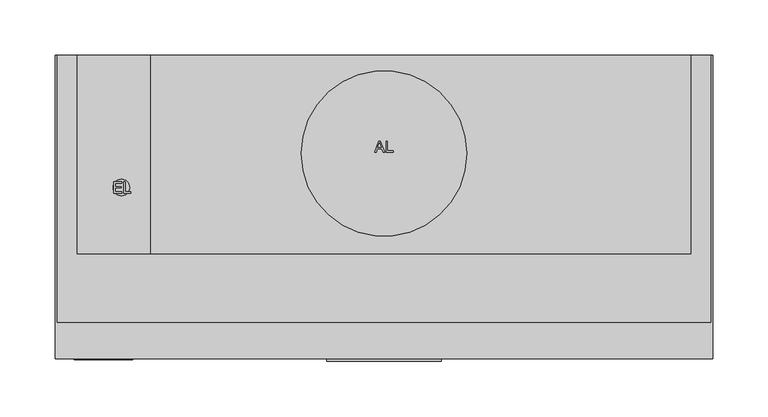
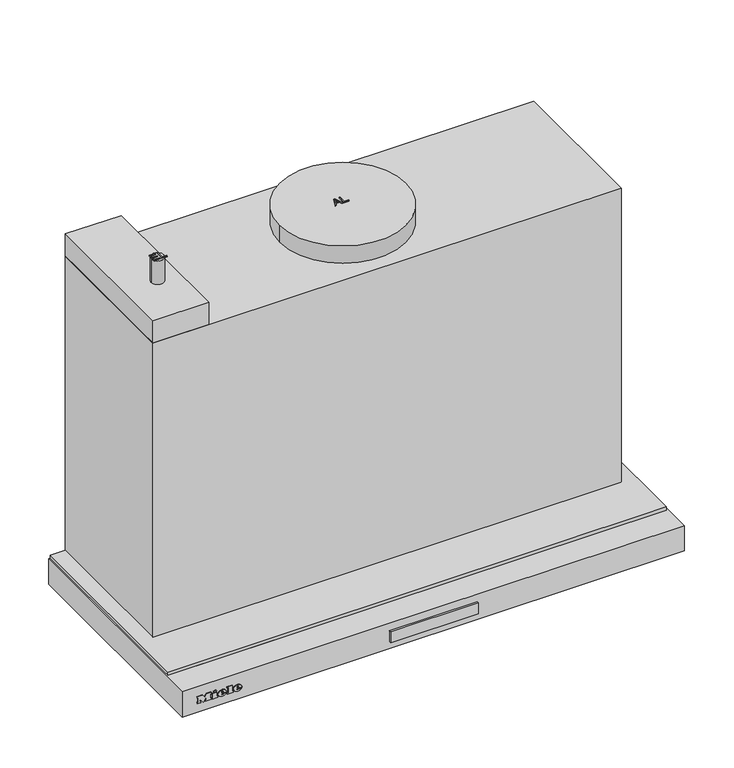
"""IFC4 building model written with IfcOpenShell, lengths in millimetres: proxy geometry, 11862150_D_DAS2620_EDST : 28S2620S_D_11862150_DAS2620_EDST."""

from ifc_helpers import new_model, si_unit, point, frame, frame_2d, origin, origin_with_axes, place, context, project, spatial, polyline, circle_curve, ellipse_curve, trimmed, segment, composite_curve, outline, extrude, faceted_brep, source, transform, mapped, element, save
from ifc_brep_helpers import plane_surface, cylinder_surface, revolved_surface, extruded_surface, advanced_brep


def specialty_equipment_d58cf125(model_context):
    return source(origin(), model_context, "Body", "SolidModel", [
        extrude(outline(polyline([(52.0, -275.0), (52.0, -277.3978707), (-52.0, -277.3978707), (-52.0, -275.0), (52.0, -275.0)])), frame((0.0, 0.0, -23.0389651), z_axis=(0.0, 0.0, 1.0), x_axis=(1.0, 0.0, 0.0)), (0.0, 0.0, 1.0), 13.3389155),
        advanced_brep(
        [(-233.4590019, -276.0, -18.7681017), (-233.4590019, -276.0, -17.8894017), (-227.6387019, -276.0, -17.8894017), (-237.7655019, -276.0, -17.8894017), (-235.3730019, -276.0, -20.8300017), (-227.7866019, -276.0, -18.7681017), (-230.4140019, -276.0, -18.7681017), (-232.4846019, -276.0, -19.7425017), (-233.4590019, -276.0, -16.7758017), (-233.4590019, -276.0, -15.8275017), (-231.9713019, -276.0, -15.8275017), (-231.9713019, -276.0, -16.7758017), (-233.4590019, -275.0, -18.7681017), (-232.4846019, -275.0, -19.7425017), (-230.4140019, -275.0, -18.7681017), (-227.7866019, -275.0, -18.7681017), (-235.3730019, -275.0, -20.8300017), (-237.7655019, -275.0, -17.8894017), (-227.6387019, -275.0, -17.8894017), (-233.4590019, -275.0, -17.8894017), (-233.4590019, -275.0, -16.7758017), (-231.9713019, -275.0, -16.7758017), (-231.9713019, -275.0, -15.8275017), (-233.4590019, -275.0, -15.8275017)],
        [
            (0, 1),
            (1, 2),
            (2, 3, ellipse_curve(frame((-232.7021019, -276.0, -17.8894017), z_axis=(0.0, -1.0, 0.0), x_axis=(-1.0, 0.0, 0.0)), 5.0634, 4.1847)),
            (3, 4, circle_curve(frame((-234.3985544, -276.0, -17.5936017), z_axis=(0.0, -1.0, 0.0), x_axis=(0.0, 0.0, -1.0)), 3.3799161)),
            (4, 5, circle_curve(frame((-232.8034638, -276.0, -15.2968017), z_axis=(0.0, -1.0, 0.0), x_axis=(0.0, 0.0, -1.0)), 6.1007236)),
            (5, 6),
            (6, 7, circle_curve(frame((-232.0593254, -276.0, -17.9590017), z_axis=(0.0, 1.0, 0.0), x_axis=(0.0, 0.0, -1.0)), 1.8335027)),
            (7, 0, circle_curve(frame((-232.4846019, -276.0, -18.7681017), z_axis=(0.0, 1.0, 0.0), x_axis=(0.0, 0.0, -1.0)), 0.9744)),
            (8, 9),
            (9, 10, circle_curve(frame((-232.7151519, -276.0, -15.8275017), z_axis=(0.0, 1.0, 0.0), x_axis=(0.0, 0.0, -1.0)), 0.74385)),
            (10, 11),
            (11, 8),
            (12, 13, circle_curve(frame((-232.4846019, -275.0, -18.7681017), z_axis=(0.0, -1.0, 0.0), x_axis=(0.0, 0.0, -1.0)), 0.9744)),
            (13, 14, circle_curve(frame((-232.0593254, -275.0, -17.9590017), z_axis=(0.0, -1.0, 0.0), x_axis=(0.0, 0.0, -1.0)), 1.8335027)),
            (14, 15),
            (15, 16, circle_curve(frame((-232.8034638, -275.0, -15.2968017), z_axis=(0.0, 1.0, 0.0), x_axis=(0.0, 0.0, -1.0)), 6.1007236)),
            (16, 17, circle_curve(frame((-234.3985544, -275.0, -17.5936017), z_axis=(0.0, 1.0, 0.0), x_axis=(0.0, 0.0, -1.0)), 3.3799161)),
            (17, 18, ellipse_curve(frame((-232.7021019, -275.0, -17.8894017), z_axis=(0.0, 1.0, 0.0), x_axis=(-1.0, 0.0, 0.0)), 5.0634, 4.1847)),
            (18, 19),
            (19, 12),
            (20, 21),
            (21, 22),
            (22, 23, circle_curve(frame((-232.7151519, -275.0, -15.8275017), z_axis=(0.0, -1.0, 0.0), x_axis=(0.0, 0.0, -1.0)), 0.74385)),
            (23, 20),
            (0, 12),
            (19, 1),
            (18, 2),
            (5, 15),
            (14, 6),
            (17, 3),
            (13, 7),
            (16, 4),
            (8, 20),
            (23, 9),
            (22, 10),
            (21, 11),
        ],
        [
            plane_surface(frame((-233.4590019, -276.0, -17.8894017), z_axis=(0.0, -1.0, 0.0), x_axis=(0.0, 0.0, 1.0))),
            plane_surface(frame((-233.4590019, -275.0, -17.8894017), z_axis=(0.0, 1.0, 0.0), x_axis=(0.0, 0.0, -1.0))),
            plane_surface(frame((-233.4590019, -276.0, -18.7681017), z_axis=(1.0, 0.0, 0.0), x_axis=(0.0, 1.0, 0.0))),
            plane_surface(frame((-233.4590019, -276.0, -17.8894017), z_axis=(0.0, 0.0, -1.0), x_axis=(0.0, 1.0, 0.0))),
            plane_surface(frame((-227.7866019, -276.0, -18.7681017), z_axis=(0.0, 0.0, 1.0), x_axis=(0.0, 1.0, 0.0))),
            extruded_surface(trimmed(ellipse_curve(frame((-232.7021019, -274.0, -17.8894017), z_axis=(0.0, -1.0, 0.0), x_axis=(-1.0, 0.0, 0.0)), 5.0634, 4.1847), [point((-227.6387019, -274.0, -17.8894017))], [point((-237.7655019, -274.0, -17.8894017))], True, "CARTESIAN"), (0.0, -1.0, 0.0), 1.0),
            revolved_surface(polyline([(-232.0593254, -275.0, -19.792504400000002), (-232.0593254, -276.0, -19.792504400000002)]), (-232.0593254, -275.0, -17.9590017), (0.0, 1.0, 0.0)),
            revolved_surface(polyline([(-232.4846019, -275.0, -19.7425017), (-232.4846019, -276.0, -19.7425017)]), (-232.4846019, -275.0, -18.7681017), (0.0, 1.0, 0.0)),
            cylinder_surface(frame((-234.3985544, -275.0, -17.5936017), z_axis=(0.0, -1.0, 0.0), x_axis=(0.0, 0.0, -1.0)), 3.3799161),
            cylinder_surface(frame((-232.8034638, -275.0, -15.2968017), z_axis=(0.0, -1.0, 0.0), x_axis=(0.0, 0.0, -1.0)), 6.1007236),
            plane_surface(frame((-233.4590019, -276.0, -16.7758017), z_axis=(1.0, 0.0, 0.0), x_axis=(0.0, 1.0, 0.0))),
            revolved_surface(polyline([(-232.7151519, -275.0, -16.571351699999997), (-232.7151519, -276.0, -16.571351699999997)]), (-232.7151519, -275.0, -15.8275017), (0.0, 1.0, 0.0)),
            plane_surface(frame((-231.9713019, -276.0, -15.8275017), z_axis=(-1.0, 0.0, 0.0), x_axis=(0.0, 1.0, 0.0))),
            plane_surface(frame((-231.9713019, -276.0, -16.7758017), z_axis=(0.0, 0.0, 1.0), x_axis=(0.0, 1.0, 0.0))),
        ],
        [
            (0, [[1, 2, 3, 4, 5, 6, 7, 8], [9, 10, 11, 12]]),
            (1, [[13, 14, 15, 16, 17, 18, 19, 20], [21, 22, 23, 24]]),
            (2, [[-1, 25, -20, 26]]),
            (3, [[-2, -26, -19, 27]]),
            (4, [[-6, 28, -15, 29]]),
            (5, [[-3, -27, -18, 30]]),
            (6, [[-7, -29, -14, 31]]),
            (7, [[-8, -31, -13, -25]]),
            (8, [[-4, -30, -17, 32]]),
            (9, [[-5, -32, -16, -28]]),
            (10, [[-9, 33, -24, 34]]),
            (11, [[-10, -34, -23, 35]]),
            (12, [[-11, -35, -22, 36]]),
            (13, [[-12, -36, -21, -33]]),
        ],
    ),
        advanced_brep(
        [(-251.6159019, -276.0, -18.7681017), (-251.6159019, -276.0, -17.8894017), (-245.7956019, -276.0, -17.8894017), (-255.9224019, -276.0, -17.8894017), (-253.5299019, -276.0, -20.8300017), (-245.9435019, -276.0, -18.7681017), (-248.5709019, -276.0, -18.7681017), (-250.6415019, -276.0, -19.7425017), (-251.6159019, -276.0, -16.7758017), (-251.6159019, -276.0, -15.8275017), (-250.1282019, -276.0, -15.8275017), (-250.1282019, -276.0, -16.7758017), (-251.6159019, -275.0, -18.7681017), (-250.6415019, -275.0, -19.7425017), (-248.5709019, -275.0, -18.7681017), (-245.9435019, -275.0, -18.7681017), (-253.5299019, -275.0, -20.8300017), (-255.9224019, -275.0, -17.8894017), (-245.7956019, -275.0, -17.8894017), (-251.6159019, -275.0, -17.8894017), (-251.6159019, -275.0, -16.7758017), (-250.1282019, -275.0, -16.7758017), (-250.1282019, -275.0, -15.8275017), (-251.6159019, -275.0, -15.8275017)],
        [
            (0, 1),
            (1, 2),
            (2, 3, ellipse_curve(frame((-250.8590019, -276.0, -17.8894017), z_axis=(0.0, -1.0, 0.0), x_axis=(-1.0, 0.0, 0.0)), 5.0634, 4.1847)),
            (3, 4, circle_curve(frame((-252.5554544, -276.0, -17.5936017), z_axis=(0.0, -1.0, 0.0), x_axis=(0.0, 0.0, -1.0)), 3.3799161)),
            (4, 5, circle_curve(frame((-250.9603638, -276.0, -15.2968017), z_axis=(0.0, -1.0, 0.0), x_axis=(0.0, 0.0, -1.0)), 6.1007236)),
            (5, 6),
            (6, 7, circle_curve(frame((-250.2162254, -276.0, -17.9590017), z_axis=(0.0, 1.0, 0.0), x_axis=(0.0, 0.0, -1.0)), 1.8335027)),
            (7, 0, circle_curve(frame((-250.6415019, -276.0, -18.7681017), z_axis=(0.0, 1.0, 0.0), x_axis=(0.0, 0.0, -1.0)), 0.9744)),
            (8, 9),
            (9, 10, circle_curve(frame((-250.8720519, -276.0, -15.8275017), z_axis=(0.0, 1.0, 0.0), x_axis=(0.0, 0.0, -1.0)), 0.74385)),
            (10, 11),
            (11, 8),
            (12, 13, circle_curve(frame((-250.6415019, -275.0, -18.7681017), z_axis=(0.0, -1.0, 0.0), x_axis=(0.0, 0.0, -1.0)), 0.9744)),
            (13, 14, circle_curve(frame((-250.2162254, -275.0, -17.9590017), z_axis=(0.0, -1.0, 0.0), x_axis=(0.0, 0.0, -1.0)), 1.8335027)),
            (14, 15),
            (15, 16, circle_curve(frame((-250.9603638, -275.0, -15.2968017), z_axis=(0.0, 1.0, 0.0), x_axis=(0.0, 0.0, -1.0)), 6.1007236)),
            (16, 17, circle_curve(frame((-252.5554544, -275.0, -17.5936017), z_axis=(0.0, 1.0, 0.0), x_axis=(0.0, 0.0, -1.0)), 3.3799161)),
            (17, 18, ellipse_curve(frame((-250.8590019, -275.0, -17.8894017), z_axis=(0.0, 1.0, 0.0), x_axis=(-1.0, 0.0, 0.0)), 5.0634, 4.1847)),
            (18, 19),
            (19, 12),
            (20, 21),
            (21, 22),
            (22, 23, circle_curve(frame((-250.8720519, -275.0, -15.8275017), z_axis=(0.0, -1.0, 0.0), x_axis=(0.0, 0.0, -1.0)), 0.74385)),
            (23, 20),
            (0, 12),
            (19, 1),
            (18, 2),
            (5, 15),
            (14, 6),
            (17, 3),
            (13, 7),
            (16, 4),
            (8, 20),
            (23, 9),
            (22, 10),
            (21, 11),
        ],
        [
            plane_surface(frame((-251.6159019, -276.0, -17.8894017), z_axis=(0.0, -1.0, 0.0), x_axis=(0.0, 0.0, 1.0))),
            plane_surface(frame((-251.6159019, -275.0, -17.8894017), z_axis=(0.0, 1.0, 0.0), x_axis=(0.0, 0.0, -1.0))),
            plane_surface(frame((-251.6159019, -276.0, -18.7681017), z_axis=(1.0, 0.0, 0.0), x_axis=(0.0, 1.0, 0.0))),
            plane_surface(frame((-251.6159019, -276.0, -17.8894017), z_axis=(0.0, 0.0, -1.0), x_axis=(0.0, 1.0, 0.0))),
            plane_surface(frame((-245.9435019, -276.0, -18.7681017), z_axis=(0.0, 0.0, 1.0), x_axis=(0.0, 1.0, 0.0))),
            extruded_surface(trimmed(ellipse_curve(frame((-250.8590019, -274.0, -17.8894017), z_axis=(0.0, -1.0, 0.0), x_axis=(-1.0, 0.0, 0.0)), 5.0634, 4.1847), [point((-245.7956019, -274.0, -17.8894017))], [point((-255.9224019, -274.0, -17.8894017))], True, "CARTESIAN"), (0.0, -1.0, 0.0), 1.0),
            revolved_surface(polyline([(-250.2162254, -275.0, -19.792504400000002), (-250.2162254, -276.0, -19.792504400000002)]), (-250.2162254, -275.0, -17.9590017), (0.0, 1.0, 0.0)),
            revolved_surface(polyline([(-250.6415019, -275.0, -19.7425017), (-250.6415019, -276.0, -19.7425017)]), (-250.6415019, -275.0, -18.7681017), (0.0, 1.0, 0.0)),
            cylinder_surface(frame((-252.5554544, -275.0, -17.5936017), z_axis=(0.0, -1.0, 0.0), x_axis=(0.0, 0.0, -1.0)), 3.3799161),
            cylinder_surface(frame((-250.9603638, -275.0, -15.2968017), z_axis=(0.0, -1.0, 0.0), x_axis=(0.0, 0.0, -1.0)), 6.1007236),
            plane_surface(frame((-251.6159019, -276.0, -16.7758017), z_axis=(1.0, 0.0, 0.0), x_axis=(0.0, 1.0, 0.0))),
            revolved_surface(polyline([(-250.8720519, -275.0, -16.571351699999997), (-250.8720519, -276.0, -16.571351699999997)]), (-250.8720519, -275.0, -15.8275017), (0.0, 1.0, 0.0)),
            plane_surface(frame((-250.1282019, -276.0, -15.8275017), z_axis=(-1.0, 0.0, 0.0), x_axis=(0.0, 1.0, 0.0))),
            plane_surface(frame((-250.1282019, -276.0, -16.7758017), z_axis=(0.0, 0.0, 1.0), x_axis=(0.0, 1.0, 0.0))),
        ],
        [
            (0, [[1, 2, 3, 4, 5, 6, 7, 8], [9, 10, 11, 12]]),
            (1, [[13, 14, 15, 16, 17, 18, 19, 20], [21, 22, 23, 24]]),
            (2, [[-1, 25, -20, 26]]),
            (3, [[-2, -26, -19, 27]]),
            (4, [[-6, 28, -15, 29]]),
            (5, [[-3, -27, -18, 30]]),
            (6, [[-7, -29, -14, 31]]),
            (7, [[-8, -31, -13, -25]]),
            (8, [[-4, -30, -17, 32]]),
            (9, [[-5, -32, -16, -28]]),
            (10, [[-9, 33, -24, 34]]),
            (11, [[-10, -34, -23, 35]]),
            (12, [[-11, -35, -22, 36]]),
            (13, [[-12, -36, -21, -33]]),
        ],
    ),
        extrude(outline(polyline([(-12.6433017, -261.1250019), (-14.0527017, -260.4638019), (-12.6781017, -257.5145019), (-11.2687017, -258.1670019), (-12.6433017, -261.1250019)])), frame((0.0, -276.0, 0.0), z_axis=(0.0, 1.0, 0.0), x_axis=(0.0, 0.0, 1.0)), (0.0, 0.0, 1.0), 1.0),
        extrude(outline(polyline([(-14.2441017, -263.2739019), (-15.8014017, -263.2739019), (-15.8014017, -262.2386019), (-19.3684017, -262.2386019), (-19.3684017, -263.2739019), (-20.8300017, -263.2739019), (-20.8300017, -256.4096019), (-19.3684017, -256.4096019), (-19.3684017, -257.4188019), (-14.2441017, -257.4188019), (-14.2441017, -263.2739019)])), frame((0.0, -276.0, 0.0), z_axis=(0.0, 1.0, 0.0), x_axis=(0.0, 0.0, 1.0)), (0.0, 0.0, 1.0), 1.0),
        extrude(outline(polyline([(-13.5481017, -245.3084019), (-13.5481017, -244.2644019), (-19.3684017, -244.2644019), (-19.3684017, -245.3084019), (-20.8300017, -245.3084019), (-20.8300017, -238.2527019), (-19.3684017, -238.2527019), (-19.3684017, -239.3228019), (-12.1300017, -239.3228019), (-12.1300017, -245.3084019), (-13.5481017, -245.3084019)])), frame((0.0, -276.0, 0.0), z_axis=(0.0, 1.0, 0.0), x_axis=(0.0, 0.0, 1.0)), (0.0, 0.0, 1.0), 1.0),
        extrude(outline(polyline([(-13.5481017, -280.6130019), (-13.5481017, -279.5603019), (-19.3684017, -279.5603019), (-19.3684017, -280.6130019), (-20.8300017, -280.6130019), (-20.8300017, -276.7850019), (-19.3684017, -276.7850019), (-19.3684017, -277.8290019), (-15.6719769, -277.8290019), (-20.8300017, -273.9401019), (-15.5772794, -270.0338019), (-19.3684017, -270.0338019), (-19.3684017, -271.1039019), (-20.8300017, -271.1039019), (-20.8300017, -264.1613019), (-19.3684017, -264.1613019), (-19.3684017, -265.2662019), (-13.5481017, -265.2662019), (-13.5481017, -264.1613019), (-12.1300017, -264.1613019), (-12.1300017, -269.4596019), (-15.3925017, -272.0000019), (-12.1300017, -274.5491019), (-12.1300017, -280.6130019), (-13.5481017, -280.6130019)])), frame((0.0, -276.0, 0.0), z_axis=(0.0, 1.0, 0.0), x_axis=(0.0, 0.0, 1.0)), (0.0, 0.0, 1.0), 1.0),
        extrude(outline(polyline([(278.0, -180.0), (-278.0, -180.0), (-278.0, 0.0), (278.0, 0.0), (278.0, -180.0)])), frame((0.0, 0.0, 4.0), z_axis=(0.0, 0.0, 1.0), x_axis=(1.0, 0.0, 0.0)), (0.0, 0.0, 1.0), 369.0),
        extrude(outline(composite_curve([segment(trimmed(circle_curve(frame_2d((0.0, -89.0)), 75.0), [point((-75.0, -89.0))], [point((75.0, -89.0))], False, "CARTESIAN"), True, "CONTINUOUS"), segment(trimmed(circle_curve(frame_2d((0.0, -89.0)), 75.0), [point((75.0, -89.0))], [point((-75.0, -89.0))], False, "CARTESIAN"), True, "CONTINUOUS")], self_intersect=False)), frame((0.0, 0.0, 373.0), z_axis=(0.0, 0.0, 1.0), x_axis=(1.0, 0.0, 0.0)), (0.0, 0.0, 1.0), 22.0),
        extrude(outline(polyline([(-278.0, -180.0), (-278.0, 0.0), (-212.0, 0.0), (-212.0, -180.0), (-278.0, -180.0)])), frame((0.0, 0.0, 373.0), z_axis=(0.0, 0.0, 1.0), x_axis=(1.0, 0.0, 0.0)), (0.0, 0.0, 1.0), 28.0),
        extrude(outline(polyline([(-8.5446725, -87.975609), (-4.5347587, -77.929978), (-3.4654484, -77.929978), (0.5420128, -87.975609), (-0.7848149, -87.975609), (-1.9326067, -84.8363493), (-6.0725055, -84.8363493), (-7.2202973, -87.975609), (-8.5446725, -87.975609)]), holes=[polyline([(-5.6114267, -83.5806455), (-2.391233, -83.5806455), (-3.2986752, -81.110931), (-4.0025561, -79.1856819), (-4.6279555, -80.8951069), (-5.6114267, -83.5806455)])]), frame((0.0, 0.0, 395.0), z_axis=(0.0, 0.0, 1.0), x_axis=(1.0, 0.0, 0.0)), (0.0, 0.0, 1.0), 1.0),
        extrude(outline(polyline([(1.8835558, -87.975609), (1.8835558, -77.929978), (3.1392597, -77.929978), (3.1392597, -86.7199052), (8.1620752, -86.7199052), (8.1620752, -87.975609), (1.8835558, -87.975609)])), frame((0.0, 0.0, 395.0), z_axis=(0.0, 0.0, 1.0), x_axis=(1.0, 0.0, 0.0)), (0.0, 0.0, 1.0), 1.0),
        extrude(outline(polyline([(296.0, 0.0), (296.0, -242.0), (-296.0, -242.0), (-296.0, 0.0), (296.0, 0.0)])), origin_with_axes(), (0.0, 0.0, 1.0), 4.0),
        extrude(outline(polyline([(120.0, -19.25), (120.0, -31.75), (-120.0, -31.75), (-120.0, -19.25), (120.0, -19.25)])), frame((0.0, 0.0, -23.0), z_axis=(0.0, 0.0, 1.0), x_axis=(1.0, 0.0, 0.0)), (0.0, 0.0, 1.0), 1.785426),
        extrude(outline(polyline([(181.0813184, -268.0), (181.0813184, -246.0), (249.0, -246.0), (249.0, -268.0), (181.0813184, -268.0)])), frame((0.0, 0.0, -33.3019181), z_axis=(0.0, 0.0, 1.0), x_axis=(1.0, 0.0, 0.0)), (0.0, 0.0, 1.0), 1.3019181),
        extrude(outline(polyline([(-249.0, -268.0), (-249.0, -246.0), (-181.0, -246.0), (-181.0, -268.0), (-249.0, -268.0)])), frame((0.0, 0.0, -33.3019181), z_axis=(0.0, 0.0, 1.0), x_axis=(1.0, 0.0, 0.0)), (0.0, 0.0, 1.0), 1.3019181),
        extrude(outline(composite_curve([segment(trimmed(circle_curve(frame_2d((-238.0, -120.0)), 7.5), [point((-230.5, -120.0))], [point((-245.5, -120.0))], False, "CARTESIAN"), True, "CONTINUOUS"), segment(trimmed(circle_curve(frame_2d((-238.0, -120.0)), 7.5), [point((-245.5, -120.0))], [point((-230.5, -120.0))], False, "CARTESIAN"), True, "CONTINUOUS")], self_intersect=False)), frame((0.0, 0.0, 401.0), z_axis=(0.0, 0.0, 1.0), x_axis=(1.0, 0.0, 0.0)), (0.0, 0.0, 1.0), 30.0),
        extrude(outline(polyline([(-235.640443, -124.9184735), (-235.640443, -114.8728425), (-234.3847391, -114.8728425), (-234.3847391, -123.6627696), (-229.3619236, -123.6627696), (-229.3619236, -124.9184735), (-235.640443, -124.9184735)])), frame((0.0, 0.0, 431.0), z_axis=(0.0, 0.0, 1.0), x_axis=(1.0, 0.0, 0.0)), (0.0, 0.0, 1.0), 1.0),
        extrude(outline(polyline([(-244.9012591, -124.9184735), (-244.9012591, -114.8728425), (-237.6809618, -114.8728425), (-237.6809618, -116.1285464), (-243.6455552, -116.1285464), (-243.6455552, -119.1108431), (-237.9948878, -119.1108431), (-237.9948878, -120.366547), (-243.6455552, -120.366547), (-243.6455552, -123.6627696), (-237.5239988, -123.6627696), (-237.5239988, -124.9184735), (-244.9012591, -124.9184735)])), frame((0.0, 0.0, 431.0), z_axis=(0.0, 0.0, 1.0), x_axis=(1.0, 0.0, 0.0)), (0.0, 0.0, 1.0), 1.0),
        extrude(outline(polyline([(-298.0, 0.0), (-263.0, 0.0), (-263.0, -242.0), (263.0, -242.0), (263.0, 0.0), (298.0, 0.0), (298.0, -275.0), (-298.0, -275.0), (-298.0, 0.0)])), frame((0.0, 0.0, -32.0), z_axis=(0.0, 0.0, 1.0), x_axis=(1.0, 0.0, 0.0)), (0.0, 0.0, 1.0), 32.0),
        faceted_brep([(-126.0, -39.0, -24.0), (-126.0, -39.0, 0.0), (126.0, -39.0, 0.0), (126.0, -39.0, -24.0), (-126.0, -12.0, -24.0), (-126.0, -12.0, 0.0), (126.0, -12.0, -24.0), (126.0, -12.0, 0.0), (-263.0, -242.0, 0.0), (-263.0, 0.0, 0.0), (-263.0, 0.0, -24.0), (-263.0, -52.0, -24.0), (-263.0, -52.0, -25.0), (-263.0, -242.0, -25.0), (263.0, -52.0, -25.0), (263.0, -242.0, -25.0), (263.0, -52.0, -24.0), (263.0, 0.0, -24.0), (263.0, 0.0, 0.0), (263.0, -242.0, 0.0)], [[[0, 1, 2, 3]], [[4, 5, 1, 0]], [[6, 7, 5, 4]], [[8, 9, 10, 11, 12, 13]], [[13, 12, 14, 15]], [[16, 11, 10, 17], [6, 4, 0, 3]], [[11, 16, 14, 12]], [[18, 9, 8, 19], [5, 7, 2, 1]], [[9, 18, 17, 10]], [[19, 8, 13, 15]], [[18, 19, 15, 14, 16, 17]], [[7, 6, 3, 2]]]),
        extrude(outline(polyline([(126.0, -12.0), (126.0, -39.0), (-126.0, -39.0), (-126.0, -12.0), (126.0, -12.0)]), holes=[polyline([(120.0, -19.25), (-120.0, -19.25), (-120.0, -31.75), (120.0, -31.75), (120.0, -19.25)])]), frame((0.0, 0.0, -21.214574), z_axis=(0.0, 0.0, 1.0), x_axis=(1.0, 0.0, 0.0)), (0.0, 0.0, 1.0), 21.214574),
    ])


if __name__ == "__main__":
    model = new_model("IFC4")
    model_context = context("Model", 3, world=origin())
    ifc_project = project(units=[si_unit("LENGTHUNIT", "METRE", prefix="MILLI")], contexts=[model_context])
    site = spatial("IfcSite", under=ifc_project)
    building = spatial("IfcBuilding", under=site)
    placement = place(None, origin())
    specialty_equipment_shape = specialty_equipment_d58cf125(model_context)
    element("IfcBuildingElementProxy", 1, Name="11862150_D_DAS2620_EDST : 28S2620S_D_11862150_DAS2620_EDST", ObjectType="11862150_D_DAS2620_EDST : 28S2620S_D_11862150_DAS2620_EDST", at=placement, inside=building, context=model_context, shape_type="MappedRepresentation", body=[
        mapped(specialty_equipment_shape, transform((0.0, 0.0, 0.0), x_axis=(1.0, 0.0, 0.0), y_axis=(0.0, 1.0, 0.0), z_axis=(0.0, 0.0, 1.0))),
    ])
    save(model, "model.ifc")
